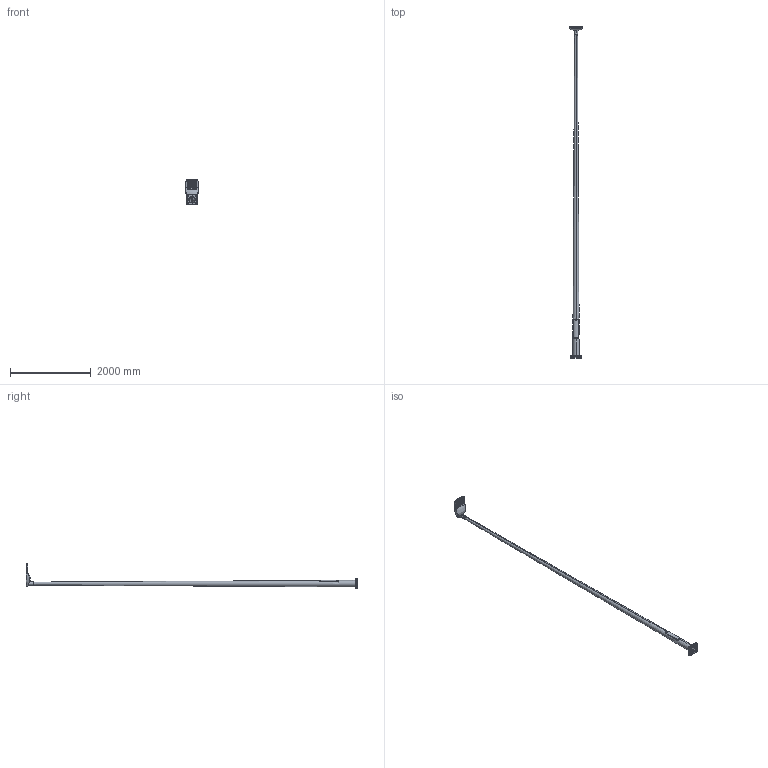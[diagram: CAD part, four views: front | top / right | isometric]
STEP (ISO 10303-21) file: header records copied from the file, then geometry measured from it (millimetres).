
FILE_DESCRIPTION (( 'STEP AP214' ), '1' );
FILE_NAME ('verta-1-8(105)-(Ê240-180-4õ25)-ö+ïî.STEP', '2021-07-13T08:23:01', ( '' ), ( '' ), 'SwSTEP 2.0', 'SolidWorks 2020', '' );
FILE_SCHEMA (( 'AUTOMOTIVE_DESIGN' ));
Length unit declared in the file: millimetre
Products named in the file (19): 署赅 膻赅-问属-8; BS-240(Ä163)-Ïîëóêðûøêà (240-163); Ïëàíêà çàçåìëåíèÿ 35õ20; 栺鍣罻-verta-8; Ñòàíäàðíûå_Ðåçüáîâàÿ çàêë¸ïêà Ì6_Šàã£« ï à¥§ì¡®¢ ï § ª«¥¯ª  Œ8 á æ¨«¨­¤à¨ç¥áª¨¬ ¡ãàâ®¬ ®âªàëâ®£® â¨¯  ¨§ ­¥à¦ ¢¥îé¥© áâ «¨; 240õ240õ12 (168),ì.ö.180, 4õ25_Ôëàíåö; DIN-ðåéêà_ŽƒŠ-6; verta-1-8(105)-(Ê240-180-4õ25)-ö+ïî; SL7502-疋弪桦桕_2; BS-240(Ä163) -ïîëóêðûøêà (240-163); êðåïëåíèå  1; Îïîðà verta-1-8(105)-(Ê240-180-4õ25)-ãö+ïî; Ñâåòèëüíèê SL7502 Âåðòà 80-110 Âò_90 ãðàä; BS-240(Ä163)-Ïëàòèê; socket button head screw_iso_ISO 7380 - M6 x 16 - 16N; 栺鍣罻-verta-8-(75-163); ﾒ矜-verta-8; BS-240(Ä163)- Äåêîðàòèâíûé öîêîëü
Assembly tree (24 placements, depth 4):
  verta-1-8(105)-(Ê240-180-4õ25)-ö+ïî
    Îïîðà verta-1-8(105)-(Ê240-180-4õ25)-ãö+ïî
      栺鍣罻-verta-8-(75-163)
        栺鍣罻-verta-8
        240õ240õ12 (168),ì.ö.180, 4õ25_Ôëàíåö
        Ïëàíêà çàçåìëåíèÿ 35õ20
        DIN-ðåéêà_ŽƒŠ-6
        ﾒ矜-verta-8
      署赅 膻赅-问属-8
      Ñòàíäàðíûå_Ðåçüáîâàÿ çàêë¸ïêà Ì6_Šàã£« ï à¥§ì¡®¢ ï § ª«¥¯ª  Œ8 á æ¨«¨­¤à¨ç¥áª¨¬ ¡ãàâ®¬ ®âªàëâ®£® â¨¯  ¨§ ­¥à¦ ¢¥îé¥© áâ «¨  x2
      socket button head screw_iso_ISO 7380 - M6 x 16 - 16N  x2
    Ñâåòèëüíèê SL7502 Âåðòà 80-110 Âò_90 ãðàä
      êðåïëåíèå  1
      SL7502-疋弪桦桕_2
    BS-240(Ä163)- Äåêîðàòèâíûé öîêîëü
      BS-240(Ä163)-Ïîëóêðûøêà (240-163)
        BS-240(Ä163) -ïîëóêðûøêà (240-163)
        BS-240(Ä163)-Ïëàòèê
      BS-240(Ä163)-Ïîëóêðûøêà (240-163)
        BS-240(Ä163) -ïîëóêðûøêà (240-163)
        BS-240(Ä163)-Ïëàòèê
      socket button head screw_iso_ISO 7380 - M6 x 16 - 16N  x2
Bounding box: 318 x 8207.17 x 638.82 mm (x, y, z)
Volume: 17204841.3 mm3; surface area: 6846058.8 mm2
Topology: 18 solids, 18 shells, 787 faces, 1818 edges, 1120 vertices
Faces by surface type: plane 349, cylinder 179, cone 148, bspline 66, torus 29, sphere 16
Entity records: 31271 total; most frequent: CARTESIAN_POINT 14446, DIRECTION 2905, ORIENTED_EDGE 2862, EDGE_CURVE 1431, AXIS2_PLACEMENT_3D 1092, VERTEX_POINT 903, VECTOR 721, LINE 721
